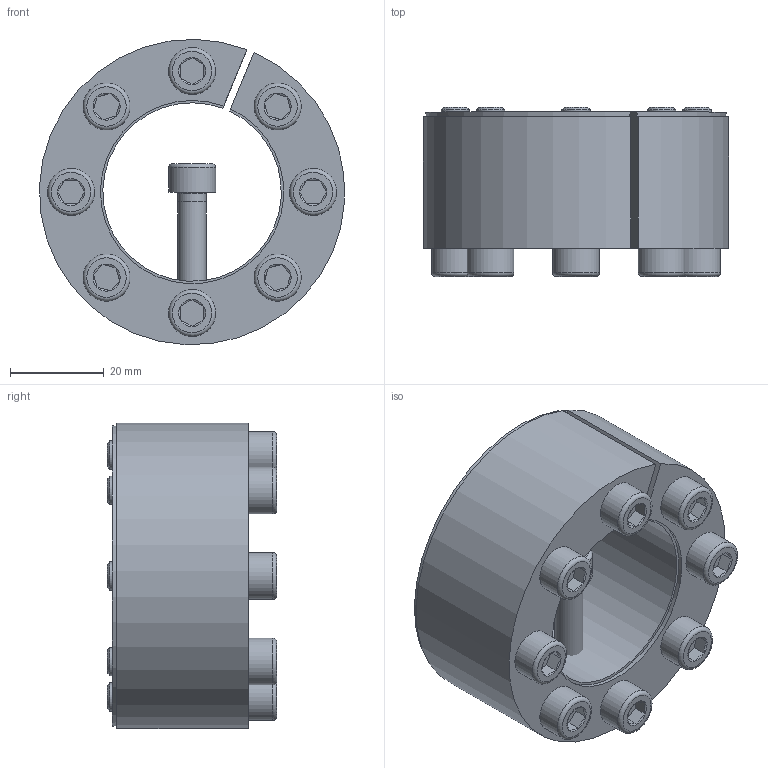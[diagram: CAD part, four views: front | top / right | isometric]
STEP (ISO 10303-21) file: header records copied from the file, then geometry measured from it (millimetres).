
FILE_DESCRIPTION( ( 'Unknown' ), '1' );
FILE_NAME( 'C:/Dokumente und Einstellungen/Sven/Desktop/homepage/cad - homepage/KBS61/KBS 61 - 38 x 65.stp', 'Unknown', ( 'Unknown' ), ( 'Unknown' ), 'XStep 1.0', 'Unknown', ' ' );
FILE_SCHEMA( ( 'automotive_design' ) );
Length unit declared in the file: millimetre
Products named in the file (3): Assem1; KBS 61 - 38 x 65; ISO EN DIN 4762 M6x30
Bounding box: 64.92 x 36 x 64.96 mm (x, y, z)
Volume: 123161.9 mm3; surface area: 45354.8 mm2
Topology: 11 solids, 11 shells, 261 faces, 499 edges, 296 vertices
Faces by surface type: plane 120, cone 67, cylinder 56, torus 18
Full cylindrical faces by diameter (mm): 5 x9, 6 x34, 10 x9
Entity records: 1378 total; most frequent: CARTESIAN_POINT 241, DIRECTION 212, ORIENTED_EDGE 150, AXIS2_PLACEMENT_3D 94, EDGE_LOOP 78, EDGE_CURVE 75, FACE_OUTER_BOUND 57, VERTEX_POINT 55
